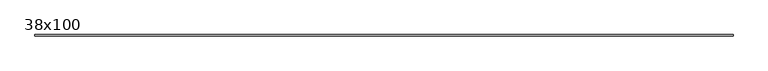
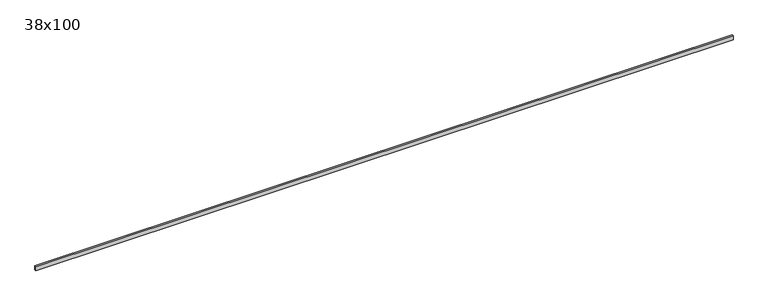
"""IFC4 building model written with IfcOpenShell, lengths in millimetres: beam geometry, Poutre - Bois de construction de dimensions courantes : 38x100."""

import ifcopenshell
import ifcopenshell.guid

model = None  # the IFC model being written
_history = None  # IfcOwnerHistory: only IFC2X3 demands one
_inside = {}  # id of a spatial element -> (the spatial element, [elements in it])
_under = {}  # id of a project, library or spatial element -> (it, [spatial elements below it])
_declared = {}  # id of a project -> (the project, [libraries it declares])
_typed = {}  # id of a type object -> (the type object, [elements of that type])
_made_of = {}  # id of a material, layer set ... -> (it, [elements and type objects made of it])


def new_model(schema):
    """Start an empty IFC model of exactly this schema.

    Asked for "IFC4X3", IfcOpenShell would pick the latest addendum, in which some entities
    have other attributes; the version numbers below select the first issue.
    IFC2X3 requires an IfcOwnerHistory on every rooted entity: one is made here for all.
    """
    global model, _history
    if schema == "IFC4X3":
        model = ifcopenshell.file(schema_version=(4, 3, 0, 0))
    else:
        model = ifcopenshell.file(schema=schema)
    _inside.clear()
    _under.clear()
    _declared.clear()
    _typed.clear()
    _made_of.clear()
    _history = None
    if model.schema == "IFC2X3":
        org = make("IfcOrganization", Name="unknown")
        user = make(
            "IfcPersonAndOrganization",
            ThePerson=make("IfcPerson", FamilyName="unknown"),
            TheOrganization=org,
        )
        app = make(
            "IfcApplication",
            ApplicationDeveloper=org,
            Version="unknown",
            ApplicationFullName="unknown",
            ApplicationIdentifier="unknown",
        )
        _history = make(
            "IfcOwnerHistory",
            OwningUser=user,
            OwningApplication=app,
            ChangeAction="ADDED",
            CreationDate=0,
        )
    return model


def make(cls, **values):
    """One entity of the class cls with the attributes given. An attribute that is None is left unset."""
    return model.create_entity(
        cls, **{name: value for name, value in values.items() if value is not None}
    )


def rooted(cls, **values):
    """An entity with a GlobalId (a new one), such as an element, a storey or a relation."""
    return make(cls, GlobalId=ifcopenshell.guid.new(), OwnerHistory=_history, **values)


def si_unit(unit_type, name, prefix=None):
    """IfcSIUnit, for example si_unit("LENGTHUNIT", "METRE", prefix="MILLI")."""
    return make("IfcSIUnit", UnitType=unit_type, Prefix=prefix, Name=name)


def assignment(units):
    """IfcUnitAssignment: the units of a project."""
    return None if units is None else make("IfcUnitAssignment", Units=units)


def point(xyz):
    """IfcCartesianPoint."""
    return None if xyz is None else make("IfcCartesianPoint", Coordinates=xyz)


def direction(xyz):
    """IfcDirection."""
    return None if xyz is None else make("IfcDirection", DirectionRatios=xyz)


def frame(location, z_axis=None, x_axis=None):
    """IfcAxis2Placement3D, a coordinate frame: its origin and axes. An axis left out is left unset."""
    return make(
        "IfcAxis2Placement3D",
        Location=point(location),
        Axis=direction(z_axis),
        RefDirection=direction(x_axis),
    )


def origin():
    """The frame at (0, 0, 0) with its axes left unset."""
    return frame((0.0, 0.0, 0.0))


def place(relative_to, where):
    """IfcLocalPlacement: puts the frame where relative to a parent placement (None: the world)."""
    return make(
        "IfcLocalPlacement", PlacementRelTo=relative_to, RelativePlacement=where
    )


def context(
    kind, dimensions, precision=None, world=None, true_north=None, identifier=None
):
    """IfcGeometricRepresentationContext, for example the 3D "Model" context."""
    return make(
        "IfcGeometricRepresentationContext",
        ContextIdentifier=identifier,
        ContextType=kind,
        CoordinateSpaceDimension=dimensions,
        Precision=precision,
        WorldCoordinateSystem=world,
        TrueNorth=true_north,
    )


def project(units=None, contexts=None):
    """IfcProject with its units and contexts."""
    return rooted(
        "IfcProject",
        Name="project",
        RepresentationContexts=contexts,
        UnitsInContext=assignment(units),
    )


def spatial(cls, under=None, at=None, **own):
    """A site, building, storey or space (cls), placed at a placement, below another one or the project."""
    s = rooted(cls, ObjectPlacement=at, **own)
    if under is not None:
        _under.setdefault(under.id(), (under, []))[1].append(s)
    return s


def polyline(points):
    """IfcPolyline through the points."""
    return make("IfcPolyline", Points=[point(p) for p in points])


def outline(outer, holes=None, kind="AREA"):
    """IfcArbitraryClosedProfileDef: a profile drawn as a closed curve; with holes, ...WithVoids."""
    if holes is None:
        return make("IfcArbitraryClosedProfileDef", ProfileType=kind, OuterCurve=outer)
    return make(
        "IfcArbitraryProfileDefWithVoids",
        ProfileType=kind,
        OuterCurve=outer,
        InnerCurves=holes,
    )


def extrude(swept, where, along, depth):
    """IfcExtrudedAreaSolid: the profile swept, set in the frame where, extruded along a direction by depth."""
    return make(
        "IfcExtrudedAreaSolid",
        SweptArea=swept,
        Position=where,
        ExtrudedDirection=direction(along),
        Depth=depth,
    )


def shape(context_of_items, identifier, shape_type, items):
    """IfcShapeRepresentation: the items that make up one representation, for example the "Body"."""
    return make(
        "IfcShapeRepresentation",
        ContextOfItems=context_of_items,
        RepresentationIdentifier=identifier,
        RepresentationType=shape_type,
        Items=items,
    )


def source(mapping_origin, context_of_items, identifier, shape_type, items):
    """IfcRepresentationMap: a shape defined once, which mapped items show again and again."""
    return make(
        "IfcRepresentationMap",
        MappingOrigin=mapping_origin,
        MappedRepresentation=shape(context_of_items, identifier, shape_type, items),
    )


def transform(
    local_origin,
    x_axis=None,
    y_axis=None,
    z_axis=None,
    scale=None,
    scale2=None,
    scale3=None,
    uniform=True,
):
    """IfcCartesianTransformationOperator3D, or its non-uniform kind. x_axis, y_axis, z_axis: its Axis1, 2, 3."""
    if uniform:
        return make(
            "IfcCartesianTransformationOperator3D",
            Axis1=direction(x_axis),
            Axis2=direction(y_axis),
            LocalOrigin=point(local_origin),
            Scale=scale,
            Axis3=direction(z_axis),
        )
    return make(
        "IfcCartesianTransformationOperator3DnonUniform",
        Axis1=direction(x_axis),
        Axis2=direction(y_axis),
        LocalOrigin=point(local_origin),
        Scale=scale,
        Axis3=direction(z_axis),
        Scale2=scale2,
        Scale3=scale3,
    )


def mapped(mapping_source, mapping_target):
    """IfcMappedItem: shows the shape of a source again, moved by a transform."""
    return make(
        "IfcMappedItem", MappingSource=mapping_source, MappingTarget=mapping_target
    )


def made_of(thing, what):
    """Note that an element or type object is made of a material, layer set ...; save() writes the relation."""
    if what is not None:
        _made_of.setdefault(what.id(), (what, []))[1].append(thing)
    return thing


def element(
    cls,
    number,
    at=None,
    inside=None,
    cuts=None,
    type_object=None,
    material=None,
    context=None,
    identifier="Body",
    shape_type=None,
    held_by="IfcProductDefinitionShape",
    body=None,
    shapes=None,
    **own,
):
    """One element of the class cls, such as IfcWall. Its Tag is "e" and its number.

    at: its placement. inside: the storey or other place that contains it. cuts: it is an
    opening in that element (IfcRelVoidsElement). A single representation is given by context,
    identifier, shape_type and body (its items); several are given by shapes. held_by: the class
    of the entity that holds the representations. save() writes the other relations.
    """
    e = rooted(cls, Tag="e%d" % number, ObjectPlacement=at, **own)
    if body is not None:
        shapes = [shape(context, identifier, shape_type, body)]
    if shapes is not None:
        e.Representation = make(held_by, Representations=shapes)
    if inside is not None:
        _inside.setdefault(inside.id(), (inside, []))[1].append(e)
    if cuts is not None:
        rooted(
            "IfcRelVoidsElement", RelatingBuildingElement=cuts, RelatedOpeningElement=e
        )
    if type_object is not None:
        _typed.setdefault(type_object.id(), (type_object, []))[1].append(e)
    return made_of(e, material)


def aggregate(whole, parts):
    """IfcRelAggregates: a whole, such as a stair, and the parts it consists of."""
    return rooted("IfcRelAggregates", RelatingObject=whole, RelatedObjects=parts)


def save(model, path):
    """Write the relations noted so far, then the file.

    IfcRelAggregates (storeys below a building ...), IfcRelContainedInSpatialStructure (elements
    in a storey), IfcRelDefinesByType, IfcRelAssociatesMaterial and IfcRelDeclares: one each for
    every whole, place, type object, material and project.
    """
    for whole, parts in _under.values():
        aggregate(whole, parts)
    for where, things in _inside.values():
        rooted(
            "IfcRelContainedInSpatialStructure",
            RelatedElements=things,
            RelatingStructure=where,
        )
    for kind, things in _typed.values():
        rooted("IfcRelDefinesByType", RelatedObjects=things, RelatingType=kind)
    for what, things in _made_of.values():
        rooted("IfcRelAssociatesMaterial", RelatedObjects=things, RelatingMaterial=what)
    for by, libraries in _declared.values():
        rooted("IfcRelDeclares", RelatingContext=by, RelatedDefinitions=libraries)
    model.write(path)


def beam_38x100_23613b6e(model_context):
    return source(origin(), model_context, "Body", "SweptSolid", [
        extrude(outline(polyline([(8494.5, 19.05), (8494.5, -19.05), (-8494.5, -19.05), (-8494.5, 19.05), (8494.5, 19.05)])), frame((0.0, 0.0, -50.0), z_axis=(0.0, 0.0, 1.0), x_axis=(1.0, 0.0, 0.0)), (0.0, 0.0, 1.0), 100.0),
    ])


if __name__ == "__main__":
    model = new_model("IFC4")
    model_context = context("Model", 3, world=origin())
    ifc_project = project(units=[si_unit("LENGTHUNIT", "METRE", prefix="MILLI")], contexts=[model_context])
    site = spatial("IfcSite", under=ifc_project)
    building = spatial("IfcBuilding", under=site)
    placement = place(None, origin())
    beam_38x100_shape = beam_38x100_23613b6e(model_context)
    element("IfcBeam", 1, ObjectType="Poutre - Bois de construction de dimensions courantes : 38x100", at=placement, inside=building, context=model_context, shape_type="MappedRepresentation", body=[
        mapped(beam_38x100_shape, transform((0.0, 0.0, 0.0), x_axis=(1.0, 0.0, 0.0), y_axis=(0.0, 1.0, 0.0), z_axis=(0.0, 0.0, 1.0))),
    ])
    save(model, "model.ifc")
